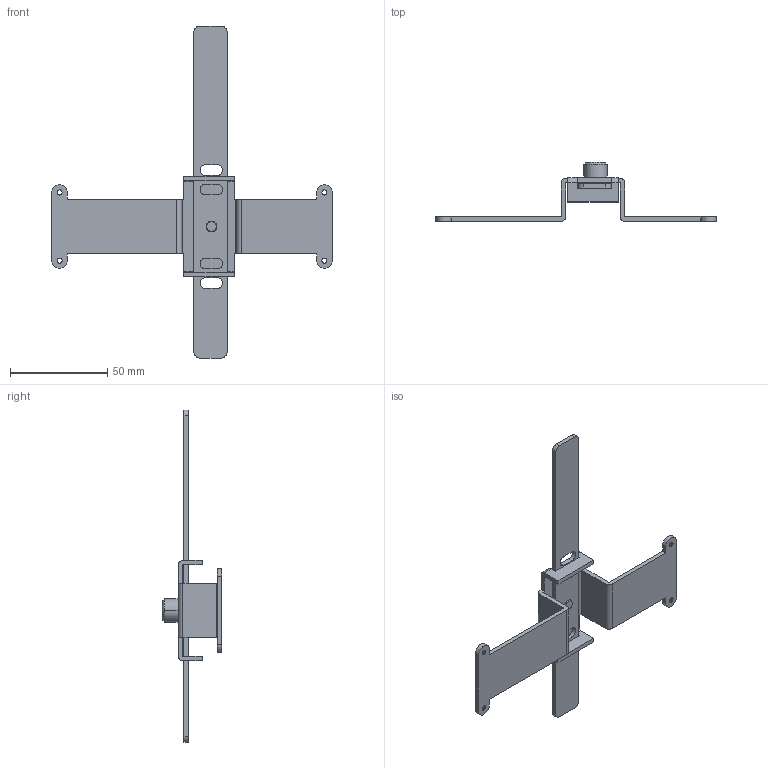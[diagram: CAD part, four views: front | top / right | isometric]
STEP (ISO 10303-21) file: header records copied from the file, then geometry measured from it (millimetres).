
FILE_DESCRIPTION(/* description */ (''),/* implementation_level */ '2;1');
FILE_NAME(/* name */ 'MIF25GM_4P NRST_3D DATA.stp',/* time_stamp */ '2018-01-10T10:09:18+09:00',/* author */ (''),/* organization */ (''),/* preprocessor_version */ 'ST-DEVELOPER v15',/* originating_system */ 'SIEMENS PLM Software NX 9.0',/* authorisation */ '');
FILE_SCHEMA (('AP203_CONFIGURATION_CONTROLLED_3D_DESIGN_OF_MECHANICAL_PARTS_AND_ASSEMBLIES_MIM_LF { 1 0 10303 403 2 1 2}'));
Length unit declared in the file: millimetre
Products named in the file (5): GC3-PG-8007_R00; GC1-OT-8035_R00; 4ME-08569-1_R00; GC3-PG-8005_R00; GC3-AS-8022_R00
Assembly tree (4 placements, depth 2):
  GC3-AS-8022_R00
    GC3-PG-8005_R00
    4ME-08569-1_R00
    GC1-OT-8035_R00
    GC3-PG-8007_R00
Bounding box: 144 x 30.3 x 170.5 mm (x, y, z)
Volume: 20827.7 mm3; surface area: 21444.1 mm2
Topology: 4 solids, 4 shells, 132 faces, 368 edges, 242 vertices
Faces by surface type: plane 64, cylinder 58, cone 10
Full cylindrical faces by diameter (mm): 5.5 x4
Entity records: 4782 total; most frequent: DIRECTION 756, CARTESIAN_POINT 735, ORIENTED_EDGE 720, EDGE_CURVE 360, AXIS2_PLACEMENT_3D 259, VERTEX_POINT 238, LINE 238, VECTOR 238
